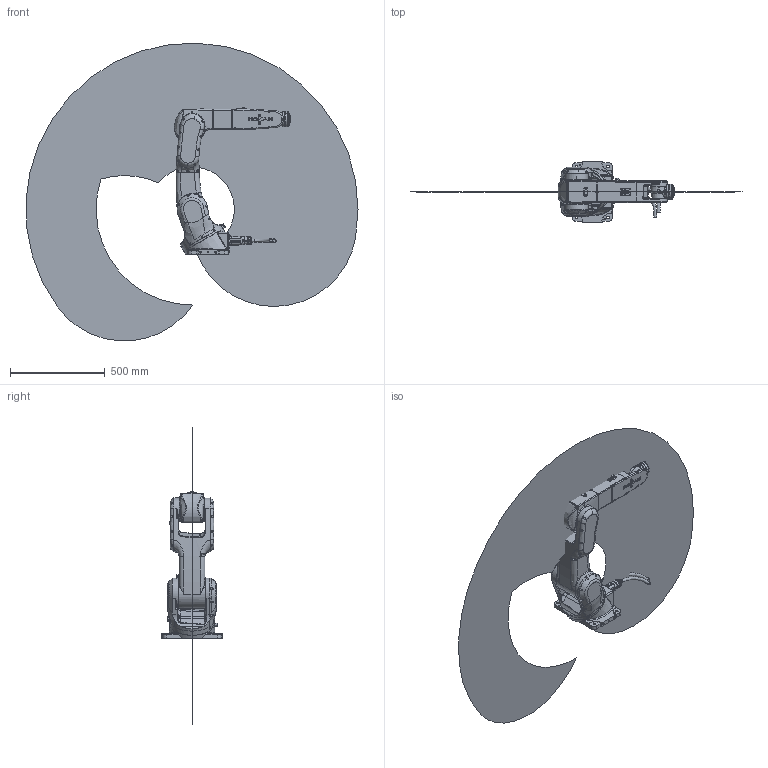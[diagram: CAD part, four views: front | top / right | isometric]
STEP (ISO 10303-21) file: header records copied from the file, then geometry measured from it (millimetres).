
FILE_DESCRIPTION(/* description */ (''),/* implementation_level */ '2;1');
FILE_NAME(/* name */ 'XB12s／_-R906-S1-XBC3线束 简化模型(20220426).stp',/* time_stamp */ '2022-04-26T16:00:33+08:00',/* author */ (''),/* organization */ (''),/* preprocessor_version */ 'ST-DEVELOPER v16',/* originating_system */ 'SIEMENS PLM Software NX 10.0',/* authorisation */ '');
FILE_SCHEMA (('CONFIG_CONTROL_DESIGN'));
Products named in the file (9): XB12-3Dwork-B; XB7&12-xiaobiqian-Blogo; XB7&12-xiaobihou-A; XB7&12-yao-A; XB12-base-A; XB12-shuchu-A; XB7&12-shouwan-A; XB7&12-dabi-B; XB12s／_-R906-S1-XBC3线束 \X2\7B80
53166A21578B\X0\(20220426)
Assembly tree (8 placements, depth 2):
  XB12s／_-R906-S1-XBC3线束 \X2\7B80
53166A21578B\X0\(20220426)
    XB7&12-dabi-B
    XB7&12-shouwan-A
    XB12-shuchu-A
    XB12-base-A
    XB7&12-yao-A
    XB7&12-xiaobihou-A
    XB7&12-xiaobiqian-Blogo
    XB12-3Dwork-B
Bounding box: 1751.35 x 318 x 1569.87 mm (x, y, z)
Volume: 27086236.3 mm3; surface area: 3055119.7 mm2
Topology: 8 solids, 19 shells, 3312 faces, 7891 edges, 4741 vertices
Faces by surface type: plane 1152, cylinder 758, bspline 746, cone 249, torus 239, extrusion 136, sphere 32
Full cylindrical faces by diameter (mm): 2.874 x1, 3.3 x8, 4.2 x12, 4.5 x4, 4.826 x1, 5 x3, 5.5 x83, 6 x2, 7 x18, 8.5 x10, 9.5 x3, 10.701 x2, 13.5 x4, 14 x1, 15 x6, 20 x2, 40 x1, 45 x1, 50 x2, 55 x2, 59 x2, 65 x1, 68 x1, 70 x2, 86 x2, 88 x1, 100 x2, 119 x1, 120 x1
Entity records: 144629 total; most frequent: CARTESIAN_POINT 75888, ORIENTED_EDGE 14646, DIRECTION 12572, EDGE_CURVE 7326, AXIS2_PLACEMENT_3D 4955, VERTEX_POINT 4583, EDGE_LOOP 3817, ADVANCED_FACE 3304
